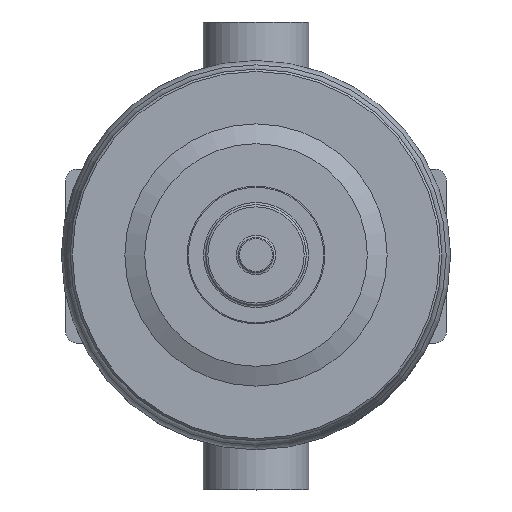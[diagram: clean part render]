
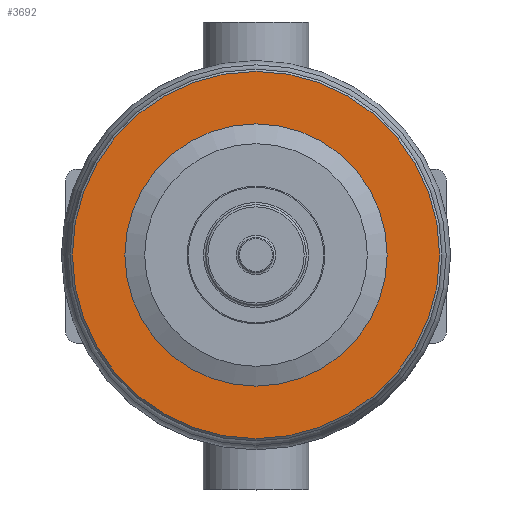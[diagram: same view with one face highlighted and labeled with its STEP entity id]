
A CAD part, top view. The second image highlights one B-rep face of the part: STEP entity #3692.
In plain terms, the highlighted planar face has unit normal (0, 0, 1) as drawn and (0, 1, 0) by its records, which use the part's own axes.
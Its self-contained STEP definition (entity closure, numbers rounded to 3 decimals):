
#1939=FACE_BOUND('',#5179,.T.);
#1940=FACE_BOUND('',#5180,.T.);
#3692=ADVANCED_FACE('',(#1939,#1940),#4102,.T.);
#4102=PLANE('',#12101);
#5179=EDGE_LOOP('',(#7302));
#5180=EDGE_LOOP('',(#7303));
#7302=ORIENTED_EDGE('',*,*,#10149,.F.);
#7303=ORIENTED_EDGE('',*,*,#10148,.F.);
#8922=VERTEX_POINT('',#19259);
#8923=VERTEX_POINT('',#19262);
#10148=EDGE_CURVE('',#8922,#8922,#11073,.T.);
#10149=EDGE_CURVE('',#8923,#8923,#11074,.T.);
#11073=CIRCLE('',#12098,84.);
#11074=CIRCLE('',#12100,60.);
#12098=AXIS2_PLACEMENT_3D('',#19258,#14585,#14586);
#12100=AXIS2_PLACEMENT_3D('',#19261,#14589,#14590);
#12101=AXIS2_PLACEMENT_3D('',#19263,#14591,#14592);
#14585=DIRECTION('',(0.,-1.,0.));
#14586=DIRECTION('',(-1.,0.,0.));
#14589=DIRECTION('',(0.,1.,0.));
#14590=DIRECTION('',(1.,0.,0.));
#14591=DIRECTION('',(0.,1.,0.));
#14592=DIRECTION('',(0.,0.,-1.));
#19258=CARTESIAN_POINT('',(0.,63.,0.));
#19259=CARTESIAN_POINT('',(84.,63.,0.));
#19261=CARTESIAN_POINT('',(0.,63.,0.));
#19262=CARTESIAN_POINT('',(60.,63.,0.));
#19263=CARTESIAN_POINT('',(60.,63.,0.));
